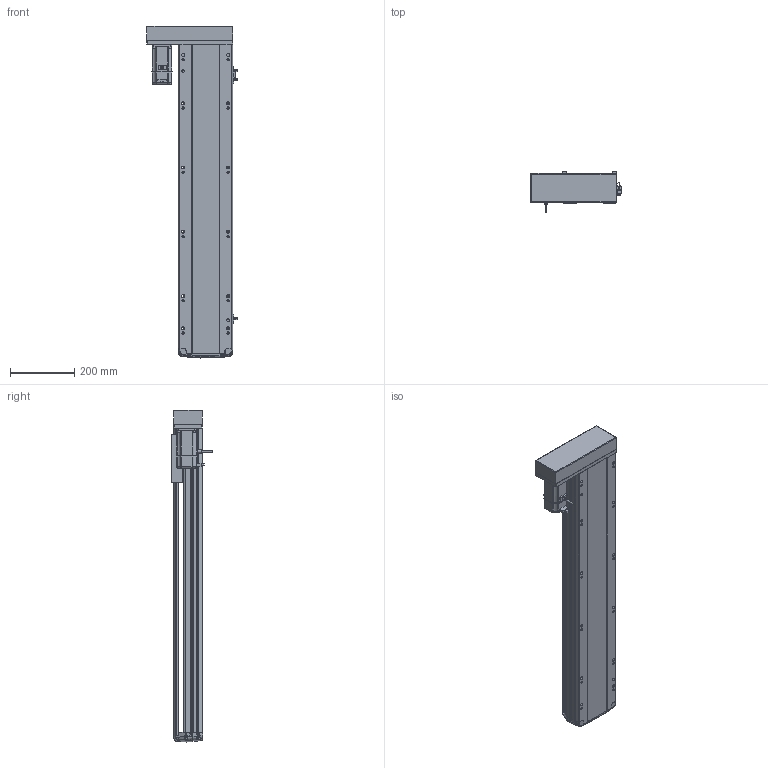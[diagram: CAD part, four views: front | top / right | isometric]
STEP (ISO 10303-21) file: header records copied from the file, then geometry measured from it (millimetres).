
FILE_DESCRIPTION (( 'STEP AP214' ), '1' );
FILE_NAME ('RTH17-XX-750-R-M40-C4.STEP', '2025-10-24T08:56:41', ( '' ), ( '' ), 'SwSTEP 2.0', 'SolidWorks 2018', '' );
FILE_SCHEMA (( 'AUTOMOTIVE_DESIGN' ));
Length unit declared in the file: millimetre
Products named in the file (10): N_RTH17-M-011底座^RTH17-XX-XX-R-M40-C4（方程式）; N_RTH17-L-008-P40电机安装板左转折^RTH17-XX-XX-R-M40-C4（方程式）; N_RTH17-GY-001P^RTH17-XX-XX-R-M40-C4（方程式）; N_RTH17-E-004丝杆螺母连接座^RTH17-XX-XX-R-M40-C4（方程式）; N_M40^RTH17-XX-XX-R-M40-C4（方程式）; N_OMRON EE-SX672 換覜ん^RTH17-XX-XX-R-M40-C4ㄗ源最宒ㄘ; N_RTH17-L-018盖子^RTH17-XX-XX-R-M40-C4（方程式）; RTH17-XX-750-R-M40-C4; N_RTH-BL-012 感应片(外置)^RTH17-XX-XX-R-M40-C4（方程式）; N_RTH17-M-007上盖^RTH17-XX-XX-R-M40-C4（方程式）
Assembly tree (11 placements, depth 2):
  RTH17-XX-750-R-M40-C4
    N_RTH17-M-011底座^RTH17-XX-XX-R-M40-C4（方程式）
    N_RTH17-M-007上盖^RTH17-XX-XX-R-M40-C4（方程式）
    N_M40^RTH17-XX-XX-R-M40-C4（方程式）
    N_OMRON EE-SX672 換覜ん^RTH17-XX-XX-R-M40-C4ㄗ源最宒ㄘ  x3
    N_RTH-BL-012 感应片(外置)^RTH17-XX-XX-R-M40-C4（方程式）
    N_RTH17-L-008-P40电机安装板左转折^RTH17-XX-XX-R-M40-C4（方程式）
    N_RTH17-L-018盖子^RTH17-XX-XX-R-M40-C4（方程式）
    N_RTH17-E-004丝杆螺母连接座^RTH17-XX-XX-R-M40-C4（方程式）
    N_RTH17-GY-001P^RTH17-XX-XX-R-M40-C4（方程式）
Bounding box: 280.5 x 127 x 1032.99 mm (x, y, z)
Volume: 9129137.5 mm3; surface area: 1173747.5 mm2
Topology: 13 solids, 15 shells, 1663 faces, 4629 edges, 3018 vertices
Faces by surface type: plane 835, cylinder 461, bspline 330, cone 28, torus 9
Entity records: 48562 total; most frequent: CARTESIAN_POINT 19635, ORIENTED_EDGE 6282, DIRECTION 5179, EDGE_CURVE 3145, VERTEX_POINT 2054, VECTOR 1765, LINE 1765, AXIS2_PLACEMENT_3D 1707
